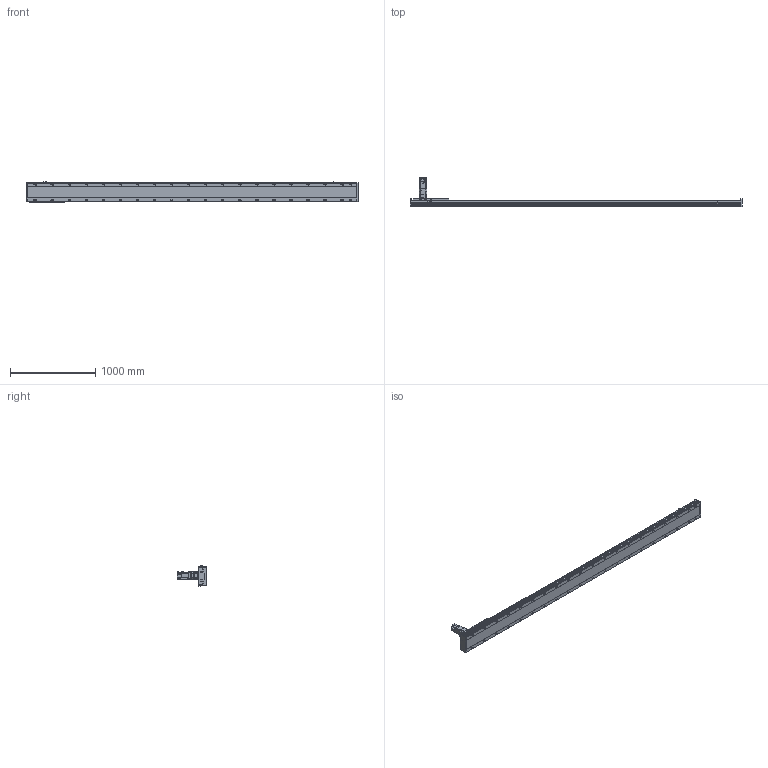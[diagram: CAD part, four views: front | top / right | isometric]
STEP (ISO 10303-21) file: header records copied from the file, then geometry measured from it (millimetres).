
FILE_DESCRIPTION(/* description */ ('STEP AP214'),/* implementation_level */ '2;1');
FILE_NAME(/* name */ 'SHS22A-L13-S3400-BC-T75-C1-N(0)',/* time_stamp */ '2022-06-15T02:28:07+02:00',/* author */ ('License CC BY-ND 4.0'),/* organization */ ('CADENAS'),/* preprocessor_version */ 'ST-DEVELOPER v18.102',/* originating_system */ 'PARTsolutions',/* authorisation */ ' ');
FILE_SCHEMA (('AUTOMOTIVE_DESIGN {1 0 10303 214 3 1 1}'));
Length unit declared in the file: millimetre
Products named in the file (7): SHS22A-L13-S3400-BC-T75-C1-N(0); PSC140-sensor; SHS22A-S3400_body2; T75-p1; SHS22A-S3400_body3; SHS22A-S3400_slider; SHS22A-L13-S3400-BC-T75-C1(0)_body
Assembly tree (13 placements, depth 2):
  SHS22A-L13-S3400-BC-T75-C1-N(0)
    PSC140-sensor  x3
    SHS22A-S3400_body2  x6
    T75-p1
    SHS22A-S3400_body3
    SHS22A-S3400_slider
    SHS22A-L13-S3400-BC-T75-C1(0)_body
Bounding box: 3894 x 350.8 x 238.4 mm (x, y, z)
Volume: 42082369.7 mm3; surface area: 4321720.7 mm2
Topology: 13 solids, 13 shells, 1941 faces, 4975 edges, 3256 vertices
Faces by surface type: plane 1360, cylinder 467, cone 105, torus 9
Full cylindrical faces by diameter (mm): 2.8 x3, 4.2 x2, 4.6 x3, 4.917 x4, 5 x4, 5.6 x24, 6 x31, 6.6 x24, 6.647 x8, 6.8 x9, 7.75 x6, 8 x3, 8.376 x40, 8.5 x40, 10 x4, 11 x4, 12 x24, 14 x40, 22 x1, 24.1 x1, 28 x1, 28.2 x1, 28.8 x1, 48.542 x1, 68 x1, 70 x1, 78 x1, 80 x2
Entity records: 32843 total; most frequent: CARTESIAN_POINT 5933, DIRECTION 5567, ORIENTED_EDGE 4980, EDGE_CURVE 2490, AXIS2_PLACEMENT_3D 1992, VERTEX_POINT 1806, FACE_BOUND 1760, EDGE_LOOP 1759
